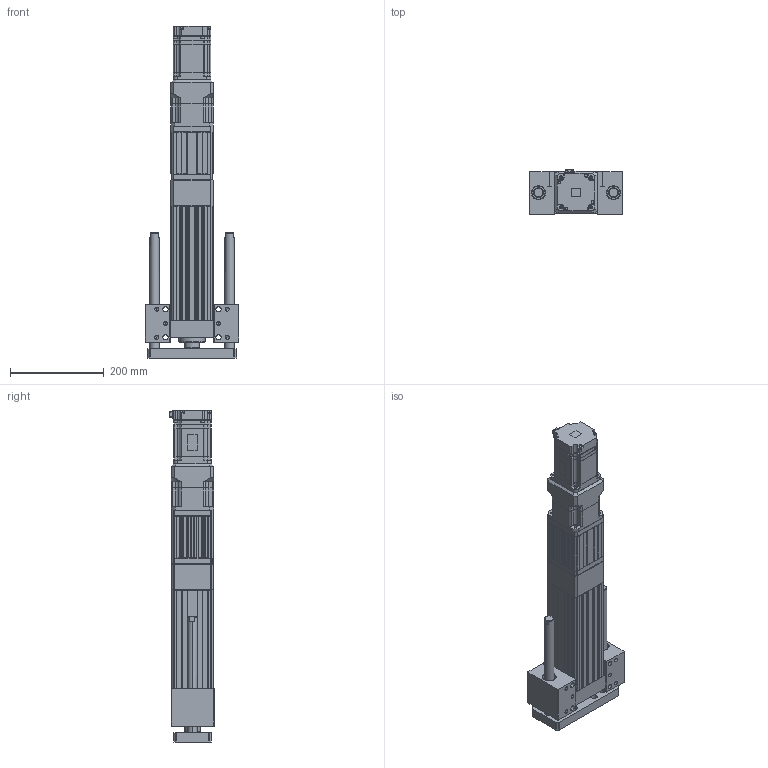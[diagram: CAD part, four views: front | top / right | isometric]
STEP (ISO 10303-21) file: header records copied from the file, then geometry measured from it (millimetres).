
FILE_DESCRIPTION (( 'STEP AP203' ), '1' );
FILE_NAME ('ANS090H-HS100-05(10)(25)-W75G05.STEP', '2019-03-18T03:17:18', ( 'user' ), ( '' ), 'SwSTEP 2.0', 'SolidWorks 2013', '' );
FILE_SCHEMA (( 'CONFIG_CONTROL_DESIGN' ));
Length unit declared in the file: millimetre
Products named in the file (5): ANS090H-HS100-05(10)(25)-W75G05; ANS090H HS100 VER2; ANS090 ROD ST100-H; SGMJV_08A_A21; AB090-005-S1-P2[YASKAWA SGMJV08A]
Assembly tree (4 placements, depth 2):
  ANS090H-HS100-05(10)(25)-W75G05
    ANS090H HS100 VER2
    ANS090 ROD ST100-H
    SGMJV_08A_A21
    AB090-005-S1-P2[YASKAWA SGMJV08A]
Bounding box: 200 x 95.8 x 708.1 mm (x, y, z)
Volume: 3857024.4 mm3; surface area: 645990.2 mm2
Topology: 3 solids, 10 shells, 1749 faces, 4692 edges, 3042 vertices
Faces by surface type: plane 1030, cylinder 559, cone 148, bspline 12
Entity records: 55250 total; most frequent: CARTESIAN_POINT 10492, ORIENTED_EDGE 9248, DIRECTION 9165, EDGE_CURVE 4668, VECTOR 3271, LINE 3271, VERTEX_POINT 3042, AXIS2_PLACEMENT_3D 2947
